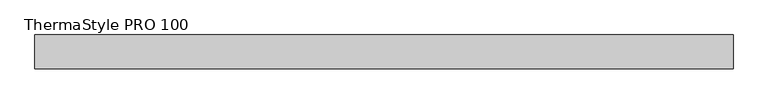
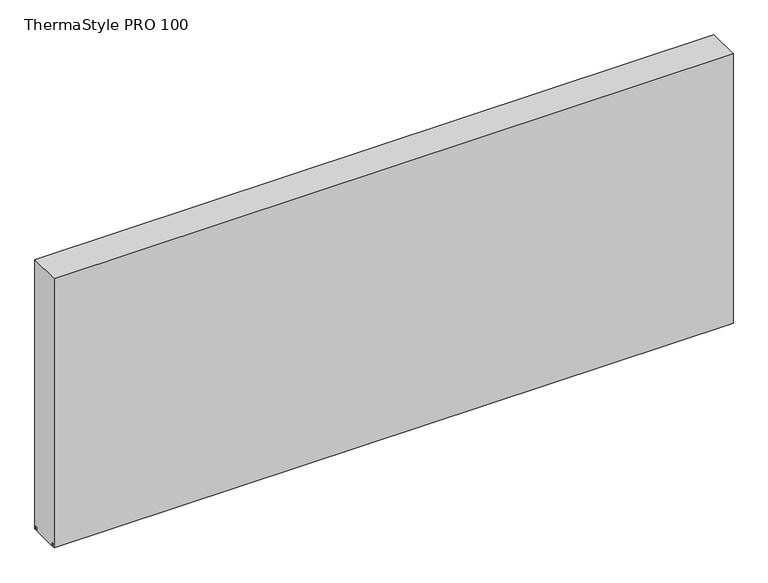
"""IFC4 building model written with IfcOpenShell, lengths in millimetres: plate geometry, Europanels_ThermaStyle PRO_Hz : ThermaStyle PRO 100."""

import ifcopenshell
import ifcopenshell.guid

model = None  # the IFC model being written
_history = None  # IfcOwnerHistory: only IFC2X3 demands one
_inside = {}  # id of a spatial element -> (the spatial element, [elements in it])
_under = {}  # id of a project, library or spatial element -> (it, [spatial elements below it])
_declared = {}  # id of a project -> (the project, [libraries it declares])
_typed = {}  # id of a type object -> (the type object, [elements of that type])
_made_of = {}  # id of a material, layer set ... -> (it, [elements and type objects made of it])


def new_model(schema):
    """Start an empty IFC model of exactly this schema.

    Asked for "IFC4X3", IfcOpenShell would pick the latest addendum, in which some entities
    have other attributes; the version numbers below select the first issue.
    IFC2X3 requires an IfcOwnerHistory on every rooted entity: one is made here for all.
    """
    global model, _history
    if schema == "IFC4X3":
        model = ifcopenshell.file(schema_version=(4, 3, 0, 0))
    else:
        model = ifcopenshell.file(schema=schema)
    _inside.clear()
    _under.clear()
    _declared.clear()
    _typed.clear()
    _made_of.clear()
    _history = None
    if model.schema == "IFC2X3":
        org = make("IfcOrganization", Name="unknown")
        user = make(
            "IfcPersonAndOrganization",
            ThePerson=make("IfcPerson", FamilyName="unknown"),
            TheOrganization=org,
        )
        app = make(
            "IfcApplication",
            ApplicationDeveloper=org,
            Version="unknown",
            ApplicationFullName="unknown",
            ApplicationIdentifier="unknown",
        )
        _history = make(
            "IfcOwnerHistory",
            OwningUser=user,
            OwningApplication=app,
            ChangeAction="ADDED",
            CreationDate=0,
        )
    return model


def make(cls, **values):
    """One entity of the class cls with the attributes given. An attribute that is None is left unset."""
    return model.create_entity(
        cls, **{name: value for name, value in values.items() if value is not None}
    )


def rooted(cls, **values):
    """An entity with a GlobalId (a new one), such as an element, a storey or a relation."""
    return make(cls, GlobalId=ifcopenshell.guid.new(), OwnerHistory=_history, **values)


def si_unit(unit_type, name, prefix=None):
    """IfcSIUnit, for example si_unit("LENGTHUNIT", "METRE", prefix="MILLI")."""
    return make("IfcSIUnit", UnitType=unit_type, Prefix=prefix, Name=name)


def assignment(units):
    """IfcUnitAssignment: the units of a project."""
    return None if units is None else make("IfcUnitAssignment", Units=units)


def point(xyz):
    """IfcCartesianPoint."""
    return None if xyz is None else make("IfcCartesianPoint", Coordinates=xyz)


def direction(xyz):
    """IfcDirection."""
    return None if xyz is None else make("IfcDirection", DirectionRatios=xyz)


def frame(location, z_axis=None, x_axis=None):
    """IfcAxis2Placement3D, a coordinate frame: its origin and axes. An axis left out is left unset."""
    return make(
        "IfcAxis2Placement3D",
        Location=point(location),
        Axis=direction(z_axis),
        RefDirection=direction(x_axis),
    )


def origin():
    """The frame at (0, 0, 0) with its axes left unset."""
    return frame((0.0, 0.0, 0.0))


def place(relative_to, where):
    """IfcLocalPlacement: puts the frame where relative to a parent placement (None: the world)."""
    return make(
        "IfcLocalPlacement", PlacementRelTo=relative_to, RelativePlacement=where
    )


def context(
    kind, dimensions, precision=None, world=None, true_north=None, identifier=None
):
    """IfcGeometricRepresentationContext, for example the 3D "Model" context."""
    return make(
        "IfcGeometricRepresentationContext",
        ContextIdentifier=identifier,
        ContextType=kind,
        CoordinateSpaceDimension=dimensions,
        Precision=precision,
        WorldCoordinateSystem=world,
        TrueNorth=true_north,
    )


def project(units=None, contexts=None):
    """IfcProject with its units and contexts."""
    return rooted(
        "IfcProject",
        Name="project",
        RepresentationContexts=contexts,
        UnitsInContext=assignment(units),
    )


def spatial(cls, under=None, at=None, **own):
    """A site, building, storey or space (cls), placed at a placement, below another one or the project."""
    s = rooted(cls, ObjectPlacement=at, **own)
    if under is not None:
        _under.setdefault(under.id(), (under, []))[1].append(s)
    return s


def polyline(points):
    """IfcPolyline through the points."""
    return make("IfcPolyline", Points=[point(p) for p in points])


def outline(outer, holes=None, kind="AREA"):
    """IfcArbitraryClosedProfileDef: a profile drawn as a closed curve; with holes, ...WithVoids."""
    if holes is None:
        return make("IfcArbitraryClosedProfileDef", ProfileType=kind, OuterCurve=outer)
    return make(
        "IfcArbitraryProfileDefWithVoids",
        ProfileType=kind,
        OuterCurve=outer,
        InnerCurves=holes,
    )


def extrude(swept, where, along, depth):
    """IfcExtrudedAreaSolid: the profile swept, set in the frame where, extruded along a direction by depth."""
    return make(
        "IfcExtrudedAreaSolid",
        SweptArea=swept,
        Position=where,
        ExtrudedDirection=direction(along),
        Depth=depth,
    )


def shape(context_of_items, identifier, shape_type, items):
    """IfcShapeRepresentation: the items that make up one representation, for example the "Body"."""
    return make(
        "IfcShapeRepresentation",
        ContextOfItems=context_of_items,
        RepresentationIdentifier=identifier,
        RepresentationType=shape_type,
        Items=items,
    )


def source(mapping_origin, context_of_items, identifier, shape_type, items):
    """IfcRepresentationMap: a shape defined once, which mapped items show again and again."""
    return make(
        "IfcRepresentationMap",
        MappingOrigin=mapping_origin,
        MappedRepresentation=shape(context_of_items, identifier, shape_type, items),
    )


def transform(
    local_origin,
    x_axis=None,
    y_axis=None,
    z_axis=None,
    scale=None,
    scale2=None,
    scale3=None,
    uniform=True,
):
    """IfcCartesianTransformationOperator3D, or its non-uniform kind. x_axis, y_axis, z_axis: its Axis1, 2, 3."""
    if uniform:
        return make(
            "IfcCartesianTransformationOperator3D",
            Axis1=direction(x_axis),
            Axis2=direction(y_axis),
            LocalOrigin=point(local_origin),
            Scale=scale,
            Axis3=direction(z_axis),
        )
    return make(
        "IfcCartesianTransformationOperator3DnonUniform",
        Axis1=direction(x_axis),
        Axis2=direction(y_axis),
        LocalOrigin=point(local_origin),
        Scale=scale,
        Axis3=direction(z_axis),
        Scale2=scale2,
        Scale3=scale3,
    )


def mapped(mapping_source, mapping_target):
    """IfcMappedItem: shows the shape of a source again, moved by a transform."""
    return make(
        "IfcMappedItem", MappingSource=mapping_source, MappingTarget=mapping_target
    )


def made_of(thing, what):
    """Note that an element or type object is made of a material, layer set ...; save() writes the relation."""
    if what is not None:
        _made_of.setdefault(what.id(), (what, []))[1].append(thing)
    return thing


def element(
    cls,
    number,
    at=None,
    inside=None,
    cuts=None,
    type_object=None,
    material=None,
    context=None,
    identifier="Body",
    shape_type=None,
    held_by="IfcProductDefinitionShape",
    body=None,
    shapes=None,
    **own,
):
    """One element of the class cls, such as IfcWall. Its Tag is "e" and its number.

    at: its placement. inside: the storey or other place that contains it. cuts: it is an
    opening in that element (IfcRelVoidsElement). A single representation is given by context,
    identifier, shape_type and body (its items); several are given by shapes. held_by: the class
    of the entity that holds the representations. save() writes the other relations.
    """
    e = rooted(cls, Tag="e%d" % number, ObjectPlacement=at, **own)
    if body is not None:
        shapes = [shape(context, identifier, shape_type, body)]
    if shapes is not None:
        e.Representation = make(held_by, Representations=shapes)
    if inside is not None:
        _inside.setdefault(inside.id(), (inside, []))[1].append(e)
    if cuts is not None:
        rooted(
            "IfcRelVoidsElement", RelatingBuildingElement=cuts, RelatedOpeningElement=e
        )
    if type_object is not None:
        _typed.setdefault(type_object.id(), (type_object, []))[1].append(e)
    return made_of(e, material)


def aggregate(whole, parts):
    """IfcRelAggregates: a whole, such as a stair, and the parts it consists of."""
    return rooted("IfcRelAggregates", RelatingObject=whole, RelatedObjects=parts)


def save(model, path):
    """Write the relations noted so far, then the file.

    IfcRelAggregates (storeys below a building ...), IfcRelContainedInSpatialStructure (elements
    in a storey), IfcRelDefinesByType, IfcRelAssociatesMaterial and IfcRelDeclares: one each for
    every whole, place, type object, material and project.
    """
    for whole, parts in _under.values():
        aggregate(whole, parts)
    for where, things in _inside.values():
        rooted(
            "IfcRelContainedInSpatialStructure",
            RelatedElements=things,
            RelatingStructure=where,
        )
    for kind, things in _typed.values():
        rooted("IfcRelDefinesByType", RelatedObjects=things, RelatingType=kind)
    for what, things in _made_of.values():
        rooted("IfcRelAssociatesMaterial", RelatedObjects=things, RelatingMaterial=what)
    for by, libraries in _declared.values():
        rooted("IfcRelDeclares", RelatingContext=by, RelatedDefinitions=libraries)
    model.write(path)


def thermastyle_pro_100_f7ab4d4c(model_context):
    return source(origin(), model_context, "Body", "SweptSolid", [
        extrude(outline(polyline([(50.0, 860.0), (50.0, 1.0), (45.0, 1.0), (45.0, 12.9552971), (37.8855682, 12.9552971), (37.8855682, 1.0), (-37.8855682, 1.0), (-37.8855682, 12.9552971), (-45.0, 12.9552971), (-45.0, 1.0), (-50.0, 1.0), (-50.0, 860.0), (50.0, 860.0)])), frame((-1025.0, 0.0, 0.0), z_axis=(1.0, 0.0, 0.0), x_axis=(0.0, 1.0, 0.0)), (0.0, 0.0, 1.0), 2050.0),
    ])


if __name__ == "__main__":
    model = new_model("IFC4")
    model_context = context("Model", 3, world=origin())
    ifc_project = project(units=[si_unit("LENGTHUNIT", "METRE", prefix="MILLI")], contexts=[model_context])
    site = spatial("IfcSite", under=ifc_project)
    building = spatial("IfcBuilding", under=site)
    placement = place(None, origin())
    thermastyle_pro_100_shape = thermastyle_pro_100_f7ab4d4c(model_context)
    element("IfcPlate", 1, ObjectType="Europanels_ThermaStyle PRO_Hz : ThermaStyle PRO 100", at=placement, inside=building, context=model_context, shape_type="MappedRepresentation", body=[
        mapped(thermastyle_pro_100_shape, transform((0.0, 0.0, 0.0), x_axis=(1.0, 0.0, 0.0), y_axis=(0.0, 1.0, 0.0), z_axis=(0.0, 0.0, 1.0))),
    ])
    save(model, "model.ifc")
